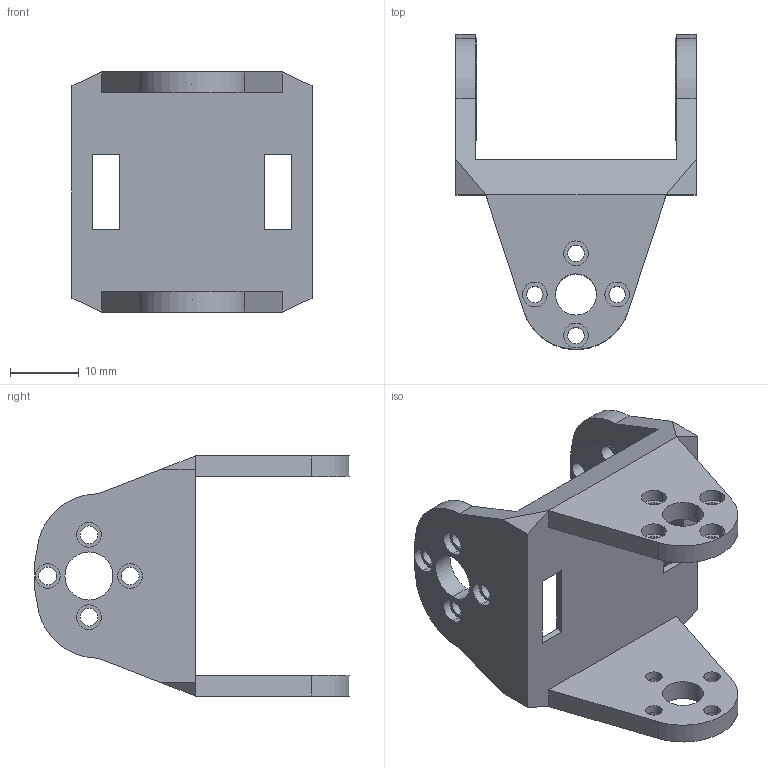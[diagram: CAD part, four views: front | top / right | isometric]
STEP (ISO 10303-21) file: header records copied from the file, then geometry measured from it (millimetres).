
FILE_DESCRIPTION (( 'STEP AP214' ), '1' );
FILE_NAME ('Finger1.STEP', '2026-09-16T05:47:00', ( '' ), ( '' ), 'SwSTEP 2.0', 'SolidWorks 2024', '' );
FILE_SCHEMA (( 'AUTOMOTIVE_DESIGN' ));
Length unit declared in the file: millimetre
Products named in the file (2): 手指外壳1短.step; Finger1
Assembly tree (1 placements, depth 2):
  Finger1
    手指外壳1短.step
Bounding box: 35 x 45.9 x 35 mm (x, y, z)
Volume: 7602.3 mm3; surface area: 7277.4 mm2
Topology: 1 solids, 1 shells, 144 faces, 360 edges, 236 vertices
Faces by surface type: cylinder 86, plane 58
Entity records: 4503 total; most frequent: DIRECTION 824, CARTESIAN_POINT 750, ORIENTED_EDGE 720, EDGE_CURVE 360, AXIS2_PLACEMENT_3D 318, VERTEX_POINT 236, EDGE_LOOP 206, LINE 188
